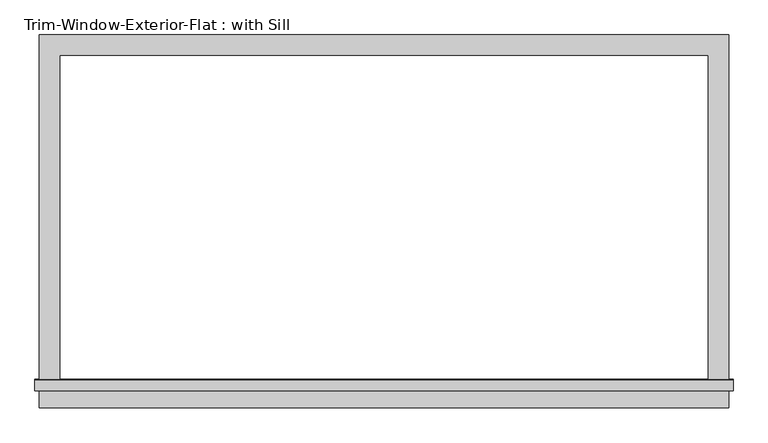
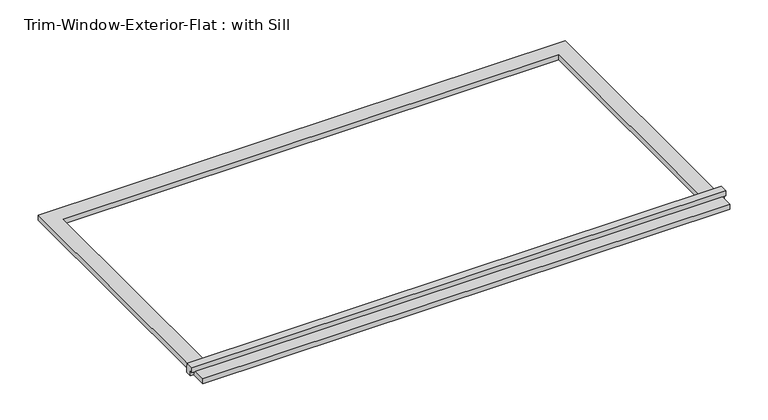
"""IFC4 building model written with IfcOpenShell, lengths in millimetres: proxy geometry, Trim-Window-Exterior-Flat : with Sill."""

from ifc_helpers import new_model, si_unit, frame, origin, origin_with_axes, place, context, project, spatial, polyline, outline, extrude, source, transform, mapped, element, save


def trim_window_exterior_flat_with_sill_3c945769(model_context):
    return source(origin(), model_context, "Body", "SweptSolid", [
        extrude(outline(polyline([(971.55, -936.5823709), (971.55, -993.7323709), (-971.55, -993.7323709), (-971.55, -936.5823709), (971.55, -936.5823709)])), origin_with_axes(), (0.0, 0.0, 1.0), 19.05),
        extrude(outline(polyline([(-946.15, 38.1), (-916.8580645, 38.1), (-914.4, 19.05), (-914.4, 0.0), (-936.5823709, 0.0), (-936.5823709, 19.05), (-946.15, 19.05), (-946.15, 38.1)])), frame((-984.25, 0.0, 0.0), z_axis=(1.0, 0.0, 0.0), x_axis=(0.0, 1.0, 0.0)), (0.0, 0.0, 1.0), 1968.5),
        extrude(outline(polyline([(-971.55, 57.15), (971.55, 57.15), (971.55, -914.4), (914.4, -914.4), (914.4, 0.0), (-914.4, 0.0), (-914.4, -914.4), (-971.55, -914.4), (-971.55, 57.15)])), origin_with_axes(), (0.0, 0.0, 1.0), 19.05),
    ])


if __name__ == "__main__":
    model = new_model("IFC4")
    model_context = context("Model", 3, world=origin())
    ifc_project = project(units=[si_unit("LENGTHUNIT", "METRE", prefix="MILLI")], contexts=[model_context])
    site = spatial("IfcSite", under=ifc_project)
    building = spatial("IfcBuilding", under=site)
    placement = place(None, origin())
    trim_window_exterior_flat_with_sill_shape = trim_window_exterior_flat_with_sill_3c945769(model_context)
    element("IfcBuildingElementProxy", 1, Name="Trim-Window-Exterior-Flat : with Sill", ObjectType="Trim-Window-Exterior-Flat : with Sill", at=placement, inside=building, context=model_context, shape_type="MappedRepresentation", body=[
        mapped(trim_window_exterior_flat_with_sill_shape, transform((0.0, 0.0, 0.0), x_axis=(1.0, 0.0, 0.0), y_axis=(0.0, 1.0, 0.0), z_axis=(0.0, 0.0, 1.0))),
    ])
    save(model, "model.ifc")
